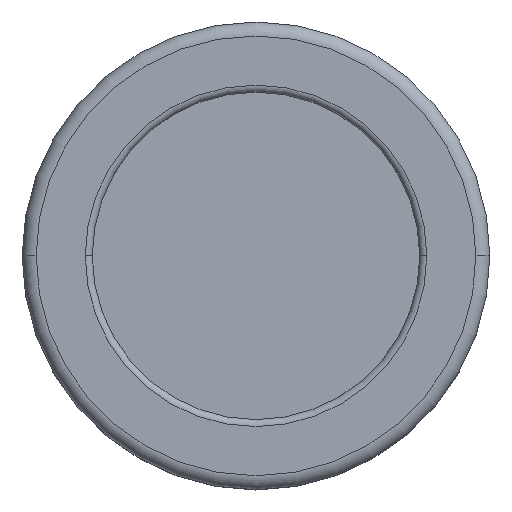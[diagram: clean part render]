
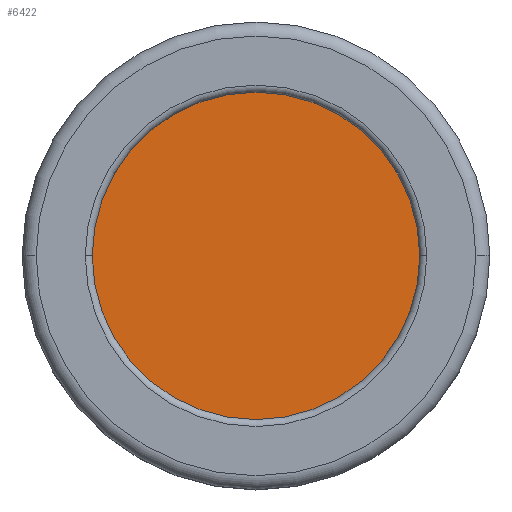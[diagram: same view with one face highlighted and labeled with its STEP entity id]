
A CAD part, top view. The second image highlights one B-rep face of the part: STEP entity #6422.
In plain terms, the highlighted planar face has unit normal (0, 0, 1).
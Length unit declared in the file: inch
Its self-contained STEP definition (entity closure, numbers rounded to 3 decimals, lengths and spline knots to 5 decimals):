
#35 = AXIS2_PLACEMENT_3D ( 'NONE', #6752, #2203, #4342 ) ;
#520 = AXIS2_PLACEMENT_3D ( 'NONE', #4407, #1609, #6166 ) ;
#685 = VERTEX_POINT ( 'NONE', #5963 ) ;
#1609 = DIRECTION ( 'NONE',  ( 0., 0., 1. ) ) ;
#2203 = DIRECTION ( 'NONE',  ( 0., 0., 1. ) ) ;
#2524 = CIRCLE ( 'NONE', #10197, 0.83 ) ;
#4342 = DIRECTION ( 'NONE',  ( 0.955, 0.298, 0. ) ) ;
#4407 = CARTESIAN_POINT ( 'NONE',  ( 0., 0., 0.256 ) ) ;
#4813 = CARTESIAN_POINT ( 'NONE',  ( 0., 0., 0.256 ) ) ;
#5963 = CARTESIAN_POINT ( 'NONE',  ( -0.79239, -0.24703, 0.256 ) ) ;
#6159 = PLANE ( 'NONE',  #35 ) ;
#6166 = DIRECTION ( 'NONE',  ( 0.955, 0.298, 0. ) ) ;
#6278 = ORIENTED_EDGE ( 'NONE', *, *, #8242, .T. ) ;
#6422 = ADVANCED_FACE ( 'NONE', ( #14786 ), #6159, .T. ) ;
#6752 = CARTESIAN_POINT ( 'NONE',  ( 0., 0., 0.256 ) ) ;
#7380 = CARTESIAN_POINT ( 'NONE',  ( 0.79239, 0.24703, 0.256 ) ) ;
#8242 = EDGE_CURVE ( 'NONE', #9344, #685, #10105, .T. ) ;
#9344 = VERTEX_POINT ( 'NONE', #7380 ) ;
#9432 = DIRECTION ( 'NONE',  ( 0.955, 0.298, 0. ) ) ;
#9854 = ORIENTED_EDGE ( 'NONE', *, *, #12055, .T. ) ;
#10105 = CIRCLE ( 'NONE', #520, 0.83 ) ;
#10197 = AXIS2_PLACEMENT_3D ( 'NONE', #4813, #14129, #9432 ) ;
#12055 = EDGE_CURVE ( 'NONE', #685, #9344, #2524, .T. ) ;
#13743 = EDGE_LOOP ( 'NONE', ( #9854, #6278 ) ) ;
#14129 = DIRECTION ( 'NONE',  ( 0., 0., 1. ) ) ;
#14786 = FACE_OUTER_BOUND ( 'NONE', #13743, .T. ) ;
